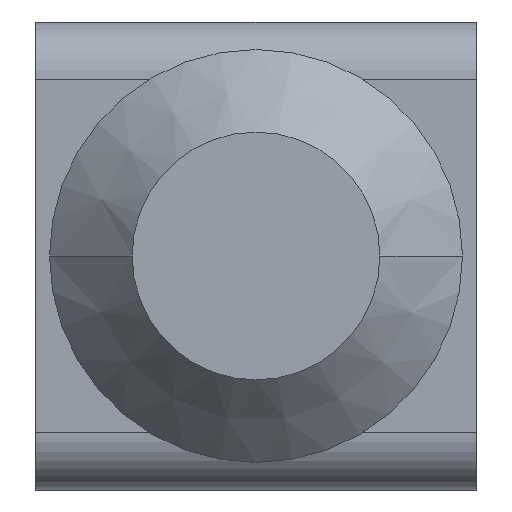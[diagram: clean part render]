
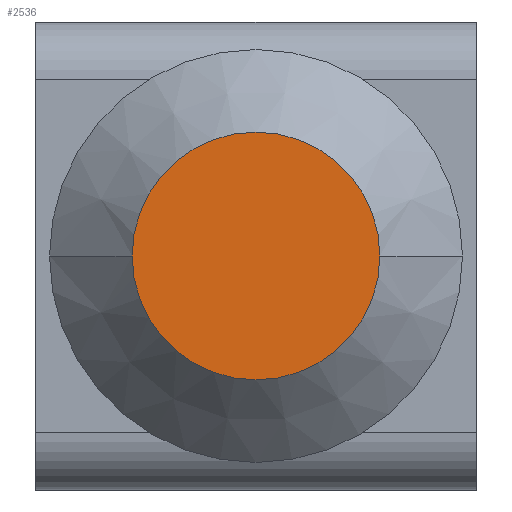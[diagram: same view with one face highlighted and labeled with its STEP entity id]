
A CAD part, front view. The second image highlights one B-rep face of the part: STEP entity #2536.
In plain terms, the highlighted planar face has unit normal (0, -1, 0).
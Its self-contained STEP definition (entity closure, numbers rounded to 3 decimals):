
#136 = CARTESIAN_POINT ( 'NONE',  ( 4.5, 0., 0. ) ) ;
#171 = VERTEX_POINT ( 'NONE', #1351 ) ;
#271 = CARTESIAN_POINT ( 'NONE',  ( 0., 0., 0. ) ) ;
#272 = DIRECTION ( 'NONE',  ( 0., 1., 0. ) ) ;
#273 = DIRECTION ( 'NONE',  ( -1., 0., 0. ) ) ;
#528 = VERTEX_POINT ( 'NONE', #136 ) ;
#904 = ORIENTED_EDGE ( 'NONE', *, *, #2567, .F. ) ;
#908 = ORIENTED_EDGE ( 'NONE', *, *, #2531, .F. ) ;
#991 = CARTESIAN_POINT ( 'NONE',  ( 0., 0., 0. ) ) ;
#992 = DIRECTION ( 'NONE',  ( 0., 1., 0. ) ) ;
#993 = DIRECTION ( 'NONE',  ( -1., 0., 0. ) ) ;
#1007 = CARTESIAN_POINT ( 'NONE',  ( -4.5, 0., 0. ) ) ;
#1010 = FACE_OUTER_BOUND ( 'NONE', #2276, .T. ) ;
#1011 = PLANE ( 'NONE',  #2207 ) ;
#1014 = DIRECTION ( 'NONE',  ( 0., -1., 0. ) ) ;
#1015 = DIRECTION ( 'NONE',  ( 1., 0., 0. ) ) ;
#1351 = CARTESIAN_POINT ( 'NONE',  ( -4.5, 0., 0. ) ) ;
#2207 = AXIS2_PLACEMENT_3D ( 'NONE', #1007, #1014, #1015 ) ;
#2208 = CIRCLE ( 'NONE', #2210, 4.5 ) ;
#2210 = AXIS2_PLACEMENT_3D ( 'NONE', #991, #992, #993 ) ;
#2259 = CIRCLE ( 'NONE', #2262, 4.5 ) ;
#2262 = AXIS2_PLACEMENT_3D ( 'NONE', #271, #272, #273 ) ;
#2276 = EDGE_LOOP ( 'NONE', ( #908, #904 ) ) ;
#2531 = EDGE_CURVE ( 'NONE', #171, #528, #2208, .T. ) ;
#2536 = ADVANCED_FACE ( 'NONE', ( #1010 ), #1011, .T. ) ;
#2567 = EDGE_CURVE ( 'NONE', #528, #171, #2259, .T. ) ;
